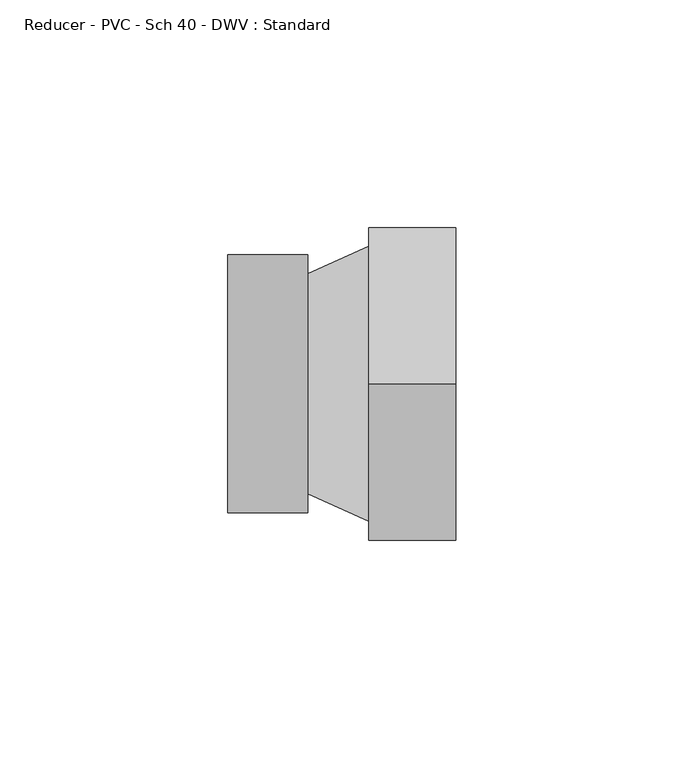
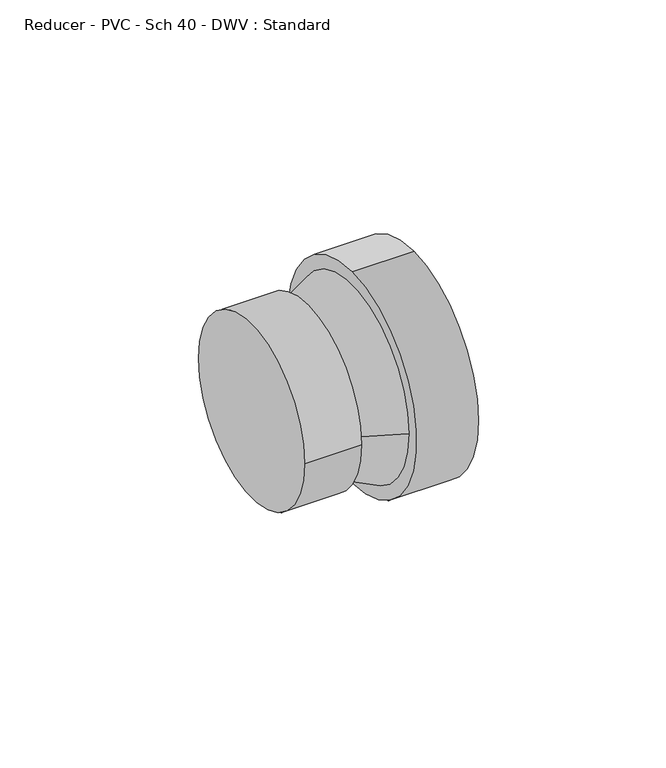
"""IFC4 building model written with IfcOpenShell, lengths in millimetres: pipe fitting geometry, Reducer - PVC - Sch 40 - DWV : Standard."""

from ifc_helpers import new_model, si_unit, frame, origin, place, context, project, spatial, circle_curve, source, transform, mapped, element, save
from ifc_brep_helpers import plane_surface, cylinder_surface, spline_surface, advanced_brep


def reducer_pvc_sch_40_dwv_standard_acc2aa3f(model_context):
    return source(origin(), model_context, "Body", "AdvancedBrep", [
        advanced_brep(
        [(0.0, -28.2829, 0.0), (0.0, 28.2829, 0.0), (17.4498, -28.2829, 0.0), (17.4498, 28.2829, 0.0), (17.4498, 24.13, 0.0), (17.4498, -24.13, 0.0), (30.9372, 30.1625, 0.0433427), (30.9372, -30.1625, 0.0433427), (30.9372, 0.0, 34.3587427), (30.9372, 0.0, -34.2720573), (49.9872, 0.0, 34.3587427), (49.9872, 0.0, -34.2720573)],
        [
            (0, 1, circle_curve(frame((0.0, 0.0, 0.0), z_axis=(-1.0, 0.0, 0.0), x_axis=(0.0, 1.0, 0.0)), 28.2829)),
            (1, 0, circle_curve(frame((0.0, 0.0, 0.0), z_axis=(-1.0, 0.0, 0.0), x_axis=(0.0, 1.0, 0.0)), 28.2829)),
            (2, 3, circle_curve(frame((17.4498, 0.0, 0.0), z_axis=(1.0, 0.0, 0.0), x_axis=(0.0, 1.0, 0.0)), 28.2829)),
            (3, 2, circle_curve(frame((17.4498, 0.0, 0.0), z_axis=(1.0, 0.0, 0.0), x_axis=(0.0, 1.0, 0.0)), 28.2829)),
            (4, 5, circle_curve(frame((17.4498, 0.0, 0.0), z_axis=(-1.0, 0.0, 0.0), x_axis=(0.0, 1.0, 0.0)), 24.13)),
            (5, 4, circle_curve(frame((17.4498, 0.0, 0.0), z_axis=(-1.0, 0.0, 0.0), x_axis=(0.0, 1.0, 0.0)), 24.13)),
            (0, 2),
            (3, 1),
            (4, 6),
            (6, 7, circle_curve(frame((30.9372, 0.0, 0.0433427), z_axis=(-1.0, 0.0, 0.0), x_axis=(0.0, 1.0, 0.0)), 30.1625)),
            (7, 5),
            (7, 6, circle_curve(frame((30.9372, 0.0, 0.0433427), z_axis=(-1.0, 0.0, 0.0), x_axis=(0.0, 1.0, 0.0)), 30.1625)),
            (8, 9, circle_curve(frame((30.9372, 0.0, 0.0433427), z_axis=(-1.0, 0.0, 0.0), x_axis=(0.0, 0.0, -1.0)), 34.3154)),
            (9, 8, circle_curve(frame((30.9372, 0.0, 0.0433427), z_axis=(-1.0, 0.0, 0.0), x_axis=(0.0, 0.0, -1.0)), 34.3154)),
            (10, 11, circle_curve(frame((49.9872, 0.0, 0.0433427), z_axis=(1.0, 0.0, 0.0), x_axis=(0.0, 0.0, -1.0)), 34.3154)),
            (11, 10, circle_curve(frame((49.9872, 0.0, 0.0433427), z_axis=(1.0, 0.0, 0.0), x_axis=(0.0, 0.0, -1.0)), 34.3154)),
            (8, 10),
            (11, 9),
        ],
        [
            plane_surface(frame((0.0, 0.0, 0.0), z_axis=(-1.0, 0.0, 0.0), x_axis=(0.0, 0.0, 1.0))),
            plane_surface(frame((17.4498, 0.0, 0.0), z_axis=(1.0, 0.0, 0.0), x_axis=(0.0, 0.0, 1.0))),
            cylinder_surface(frame((0.0, 0.0, 0.0), z_axis=(-1.0, 0.0, 0.0), x_axis=(0.0, 1.0, 0.0)), 28.2829),
            spline_surface(2, 1, [[(17.4498, -24.13, 0.0), (30.9372, -30.1625, 0.0433427)], [(17.4498, -24.13, -24.13), (30.9372, -30.1625, -30.1191573)], [(17.4498, 0.0, -24.13), (30.9372, 0.0, -30.1191573)], [(17.4498, 24.13, -24.13), (30.9372, 30.1625, -30.1191573)], [(17.4498, 24.13, 0.0), (30.9372, 30.1625, 0.0433427)]], [3, 2, 3], [2, 2], [0.0, 1.0, 2.0], [0.0, 1.0], weights=[[1.0, 1.0], [0.7071067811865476, 0.7071067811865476], [1.0, 1.0], [0.7071067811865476, 0.7071067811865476], [1.0, 1.0]]),
            spline_surface(2, 1, [[(17.4498, 24.13, 0.0), (30.9372, 30.1625, 0.0433427)], [(17.4498, 24.13, 24.13), (30.9372, 30.1625, 30.2058427)], [(17.4498, 0.0, 24.13), (30.9372, 0.0, 30.2058427)], [(17.4498, -24.13, 24.13), (30.9372, -30.1625, 30.2058427)], [(17.4498, -24.13, 0.0), (30.9372, -30.1625, 0.0433427)]], [3, 2, 3], [2, 2], [0.0, 1.0, 2.0], [0.0, 1.0], weights=[[1.0, 1.0], [0.7071067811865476, 0.7071067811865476], [1.0, 1.0], [0.7071067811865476, 0.7071067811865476], [1.0, 1.0]]),
            plane_surface(frame((30.9372, 0.0, 0.0433427), z_axis=(-1.0, 0.0, 0.0), x_axis=(0.0, 1.0, 0.0))),
            plane_surface(frame((49.9872, 0.0, 0.0433427), z_axis=(1.0, 0.0, 0.0), x_axis=(0.0, 1.0, 0.0))),
            cylinder_surface(frame((30.9372, 0.0, 0.0433427), z_axis=(-1.0, 0.0, 0.0), x_axis=(0.0, 0.0, -1.0)), 34.3154),
        ],
        [
            (0, [[1, 2]]),
            (1, [[3, 4], [5, 6]]),
            (2, [[-1, 7, -4, 8]]),
            (2, [[-2, -8, -3, -7]]),
            (3, [[9, 10, 11, -5]]),
            (4, [[-9, -6, -11, 12]]),
            (5, [[13, 14], [-10, -12]]),
            (6, [[15, 16]]),
            (7, [[-13, 17, -16, 18]]),
            (7, [[-14, -18, -15, -17]]),
        ],
    ),
    ])


if __name__ == "__main__":
    model = new_model("IFC4")
    model_context = context("Model", 3, world=origin())
    ifc_project = project(units=[si_unit("LENGTHUNIT", "METRE", prefix="MILLI")], contexts=[model_context])
    site = spatial("IfcSite", under=ifc_project)
    building = spatial("IfcBuilding", under=site)
    placement = place(None, origin())
    reducer_pvc_sch_40_dwv_standard_shape = reducer_pvc_sch_40_dwv_standard_acc2aa3f(model_context)
    element("IfcPipeFitting", 1, ObjectType="Reducer - PVC - Sch 40 - DWV : Standard", at=placement, inside=building, context=model_context, shape_type="MappedRepresentation", body=[
        mapped(reducer_pvc_sch_40_dwv_standard_shape, transform((0.0, 0.0, 0.0), x_axis=(1.0, 0.0, 0.0), y_axis=(0.0, 1.0, 0.0), z_axis=(0.0, 0.0, 1.0))),
    ])
    save(model, "model.ifc")
